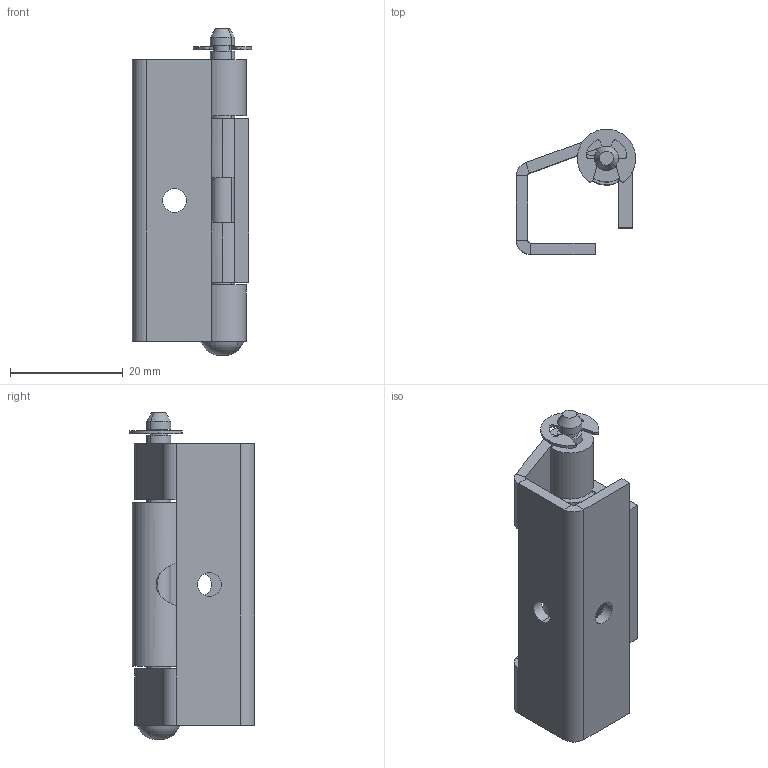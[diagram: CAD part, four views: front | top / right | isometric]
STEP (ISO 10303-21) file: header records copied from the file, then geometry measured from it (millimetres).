
FILE_DESCRIPTION (( 'STEP AP214' ), '1' );
FILE_NAME ('3.ST14.001.STEP', '2010-03-01T18:20:22', ( 'Piotr Zieliñski' ), ( 'Roztocze Z.U.P.' ), 'SwSTEP 2.0', 'SolidWorks 2004231', '' );
FILE_SCHEMA (( 'AUTOMOTIVE_DESIGN' ));
Length unit declared in the file: millimetre
Products named in the file (5): 3.ST14.001.01_Domyœlna; P³ytka osadcza Fi4_Domyœlna; 3.ST14.001.02_Domyœlna; 3.ST14.001; 3.ST14.001.03_Domyœlna
Assembly tree (4 placements, depth 2):
  3.ST14.001
    3.ST14.001.03_Domyœlna
    P³ytka osadcza Fi4_Domyœlna
    3.ST14.001.01_Domyœlna
    3.ST14.001.02_Domyœlna
Bounding box: 21.16 x 22.19 x 58.01 mm (x, y, z)
Volume: 6668.2 mm3; surface area: 7325.6 mm2
Topology: 4 solids, 4 shells, 109 faces, 259 edges, 159 vertices
Faces by surface type: plane 55, cylinder 49, cone 2, torus 2, bspline 1
Entity records: 3605 total; most frequent: CARTESIAN_POINT 859, DIRECTION 591, ORIENTED_EDGE 514, EDGE_CURVE 257, AXIS2_PLACEMENT_3D 223, VERTEX_POINT 159, VECTOR 145, LINE 145
